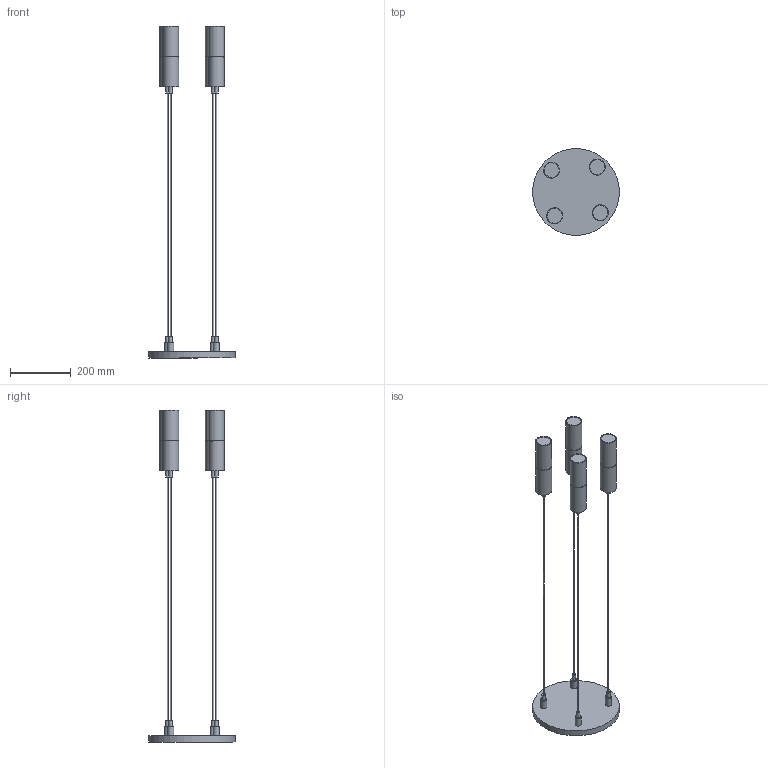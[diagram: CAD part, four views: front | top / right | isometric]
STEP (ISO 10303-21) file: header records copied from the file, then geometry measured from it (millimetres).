
FILE_DESCRIPTION(/* description */ (''),/* implementation_level */ '2;1');
FILE_NAME(/* name */ 'D:\TK Lighting\Elit Black\Lampa Elit Black4364_.stp',/* time_stamp */ '2020-09-28T19:49:44+02:00',/* author */ ('Admin'),/* organization */ (''),/* preprocessor_version */ 'ST-DEVELOPER v16.5',/* originating_system */ 'Autodesk Inventor 2017',/* authorisation */ '');
FILE_SCHEMA (('AUTOMOTIVE_DESIGN { 1 0 10303 214 3 1 1 }'));
Products named in the file (6): Lampa Elit Black4364_; Lampa Logan Black_285; Klosz srebrny 4367; Klosz; Zawiesie; Elit 285 zawiesie kolo
Assembly tree (8 placements, depth 3):
  Lampa Elit Black4364_
    Lampa Logan Black_285  x4
      Klosz srebrny 4367
      Klosz
      Zawiesie
    Elit 285 zawiesie kolo
Bounding box: 285 x 285 x 1090 mm (x, y, z)
Volume: 3040687.8 mm3; surface area: 367316.6 mm2
Topology: 13 solids, 13 shells, 79 faces, 99 edges, 66 vertices
Faces by surface type: plane 46, cylinder 33
Full cylindrical faces by diameter (mm): 4 x4, 12 x8, 20 x4, 49 x8, 52 x8, 285 x1
Entity records: 795 total; most frequent: DIRECTION 132, CARTESIAN_POINT 90, AXIS2_PLACEMENT_3D 66, EDGE_LOOP 48, ORIENTED_EDGE 48, STYLED_ITEM 30, FACE_OUTER_BOUND 28, ADVANCED_FACE 28
